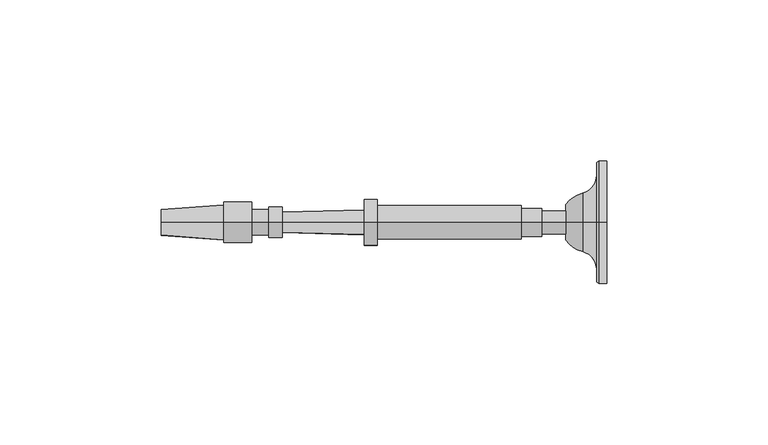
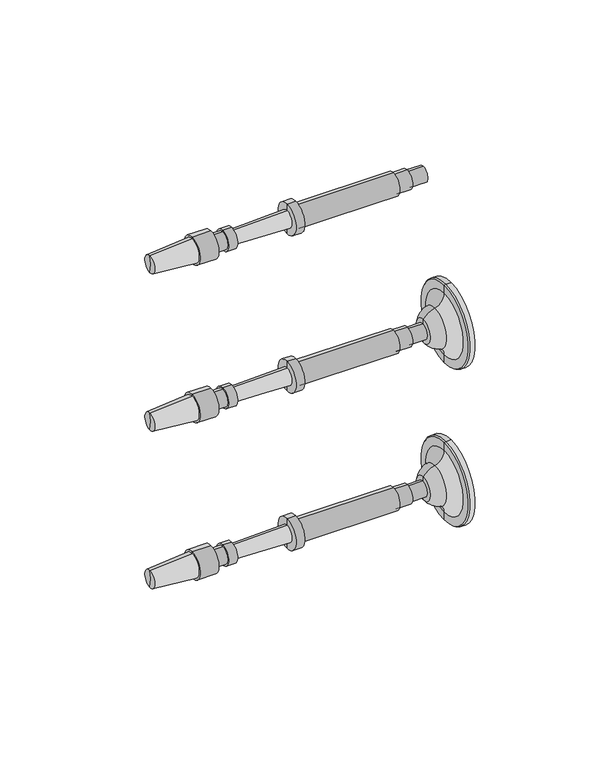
"""IFC4 building model written with IfcOpenShell, lengths in millimetres: railing geometry, RAILEASY CABLE RAILING CORNER TENSIONERS STAIR."""

from ifc_helpers import new_model, si_unit, point, frame, origin, place, context, project, spatial, polyline, circle_curve, ellipse_curve, trimmed, source, transform, mapped, element, save
from ifc_brep_helpers import plane_surface, cylinder_surface, revolved_surface, advanced_brep


def railing_fa4fd80e(model_context):
    return source(origin(), model_context, "Body", "AdvancedBrep", [
        advanced_brep(
        [(4032.408954, 16706.2866843, 33140.0282881), (4032.408954, 16706.2866843, 33143.6001631), (4032.408954, 16706.2866843, 33147.1720381), (3907.4650648, 16706.2866843, 33143.6001631), (3907.1694004, 16706.2866843, 33139.5757028), (3907.1694004, 16706.2866843, 33147.6246235), (3926.5127644, 16706.2866843, 33138.1546072), (3926.5127644, 16706.2866843, 33149.045719), (3926.5127644, 16706.2866843, 33137.2616385), (3926.5127644, 16706.2866843, 33149.9386877), (3935.1447956, 16706.2866843, 33137.2616385), (3935.1447956, 16706.2866843, 33149.9386877), (3935.1447956, 16706.2866843, 33139.6428885), (3935.1447956, 16706.2866843, 33147.5574377), (3940.5026081, 16706.2866843, 33139.6428885), (3940.5026081, 16706.2866843, 33147.5574377), (3940.5026081, 16706.2866843, 33138.8491385), (3940.5026081, 16706.2866843, 33148.3511877), (3944.5705769, 16706.2866843, 33138.8491385), (3944.5705769, 16706.2866843, 33148.3511877), (3944.614664, 16706.2866843, 33140.4360262), (3944.614664, 16706.2866843, 33146.7643), (3970.0048672, 16706.2866843, 33139.7306319), (3970.0048672, 16706.2866843, 33147.4696944), (3970.0048672, 16706.2866843, 33136.4564131), (3970.0048672, 16706.2866843, 33150.7439131), (3973.9736172, 16706.2866843, 33136.4564131), (3973.9736172, 16706.2866843, 33150.7439131), (3973.9736172, 16706.2866843, 33138.4407881), (3973.9736172, 16706.2866843, 33148.7595381), (4018.7212735, 16706.2866843, 33138.4407881), (4018.7212735, 16706.2866843, 33148.7595381), (4018.7212735, 16706.2866843, 33139.2345381), (4018.7212735, 16706.2866843, 33147.9657881), (4025.0712735, 16706.2866843, 33139.2345381), (4025.0712735, 16706.2866843, 33147.9657881), (4025.0712735, 16706.2866843, 33140.0282881), (4025.0712735, 16706.2866843, 33147.1720381)],
        [
            (0, 1),
            (1, 2),
            (2, 0, circle_curve(frame((4032.408954, 16706.2866843, 33143.6001631), z_axis=(1.0, 0.0, 0.0), x_axis=(0.0, 0.0, 1.0000000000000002)), 3.571875)),
            (0, 2, circle_curve(frame((4032.408954, 16706.2866843, 33143.6001631), z_axis=(1.0, 0.0, 0.0), x_axis=(0.0, 0.0, 1.0000000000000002)), 3.571875)),
            (3, 4),
            (4, 5, circle_curve(frame((3907.1694004, 16706.2866843, 33143.6001631), z_axis=(-1.0, 0.0, 0.0), x_axis=(0.0, 0.0, 1.0000000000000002)), 4.0244604)),
            (5, 3),
            (5, 4, circle_curve(frame((3907.1694004, 16706.2866843, 33143.6001631), z_axis=(-1.0, 0.0, 0.0), x_axis=(0.0, 0.0, 1.0000000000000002)), 4.0244604)),
            (4, 6),
            (6, 7, circle_curve(frame((3926.5127644, 16706.2866843, 33143.6001631), z_axis=(-1.0, 0.0, 0.0), x_axis=(0.0, 0.0, 1.0000000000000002)), 5.4455559)),
            (7, 5),
            (7, 6, circle_curve(frame((3926.5127644, 16706.2866843, 33143.6001631), z_axis=(-1.0, 0.0, 0.0), x_axis=(0.0, 0.0, 1.0000000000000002)), 5.4455559)),
            (6, 8),
            (8, 9, circle_curve(frame((3926.5127644, 16706.2866843, 33143.6001631), z_axis=(-1.0, 0.0, 0.0), x_axis=(0.0, 0.0, 1.0000000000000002)), 6.3385246)),
            (9, 7),
            (9, 8, circle_curve(frame((3926.5127644, 16706.2866843, 33143.6001631), z_axis=(-1.0, 0.0, 0.0), x_axis=(0.0, 0.0, 1.0000000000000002)), 6.3385246)),
            (8, 10),
            (10, 11, circle_curve(frame((3935.1447956, 16706.2866843, 33143.6001631), z_axis=(-1.0, 0.0, 0.0), x_axis=(0.0, 0.0, 1.0000000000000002)), 6.3385246)),
            (11, 9),
            (11, 10, circle_curve(frame((3935.1447956, 16706.2866843, 33143.6001631), z_axis=(-1.0, 0.0, 0.0), x_axis=(0.0, 0.0, 1.0000000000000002)), 6.3385246)),
            (10, 12),
            (12, 13, circle_curve(frame((3935.1447956, 16706.2866843, 33143.6001631), z_axis=(-1.0, 0.0, 0.0), x_axis=(0.0, 0.0, 1.0000000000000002)), 3.9572746)),
            (13, 11),
            (13, 12, circle_curve(frame((3935.1447956, 16706.2866843, 33143.6001631), z_axis=(-1.0, 0.0, 0.0), x_axis=(0.0, 0.0, 1.0000000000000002)), 3.9572746)),
            (12, 14),
            (14, 15, circle_curve(frame((3940.5026081, 16706.2866843, 33143.6001631), z_axis=(-1.0, 0.0, 0.0), x_axis=(0.0, 0.0, 1.0000000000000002)), 3.9572746)),
            (15, 13),
            (15, 14, circle_curve(frame((3940.5026081, 16706.2866843, 33143.6001631), z_axis=(-1.0, 0.0, 0.0), x_axis=(0.0, 0.0, 1.0000000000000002)), 3.9572746)),
            (14, 16),
            (16, 17, circle_curve(frame((3940.5026081, 16706.2866843, 33143.6001631), z_axis=(-1.0, 0.0, 0.0), x_axis=(0.0, 0.0, 1.0000000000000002)), 4.7510246)),
            (17, 15),
            (17, 16, circle_curve(frame((3940.5026081, 16706.2866843, 33143.6001631), z_axis=(-1.0, 0.0, 0.0), x_axis=(0.0, 0.0, 1.0000000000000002)), 4.7510246)),
            (16, 18),
            (18, 19, circle_curve(frame((3944.5705769, 16706.2866843, 33143.6001631), z_axis=(-1.0, 0.0, 0.0), x_axis=(0.0, 0.0, 1.0000000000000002)), 4.7510246)),
            (19, 17),
            (19, 18, circle_curve(frame((3944.5705769, 16706.2866843, 33143.6001631), z_axis=(-1.0, 0.0, 0.0), x_axis=(0.0, 0.0, 1.0000000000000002)), 4.7510246)),
            (18, 20),
            (20, 21, circle_curve(frame((3944.614664, 16706.2866843, 33143.6001631), z_axis=(-1.0, 0.0, 0.0), x_axis=(0.0, 0.0, 1.0000000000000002)), 3.1641369)),
            (21, 19),
            (21, 20, circle_curve(frame((3944.614664, 16706.2866843, 33143.6001631), z_axis=(-1.0, 0.0, 0.0), x_axis=(0.0, 0.0, 1.0000000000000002)), 3.1641369)),
            (20, 22),
            (22, 23, circle_curve(frame((3970.0048672, 16706.2866843, 33143.6001631), z_axis=(-1.0, 0.0, 0.0), x_axis=(0.0, 0.0, 1.0000000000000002)), 3.8695313)),
            (23, 21),
            (23, 22, circle_curve(frame((3970.0048672, 16706.2866843, 33143.6001631), z_axis=(-1.0, 0.0, 0.0), x_axis=(0.0, 0.0, 1.0000000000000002)), 3.8695313)),
            (22, 24),
            (24, 25, circle_curve(frame((3970.0048672, 16706.2866843, 33143.6001631), z_axis=(-1.0, 0.0, 0.0), x_axis=(0.0, 0.0, 1.0000000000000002)), 7.14375)),
            (25, 23),
            (25, 24, circle_curve(frame((3970.0048672, 16706.2866843, 33143.6001631), z_axis=(-1.0, 0.0, 0.0), x_axis=(0.0, 0.0, 1.0000000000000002)), 7.14375)),
            (24, 26),
            (26, 27, circle_curve(frame((3973.9736172, 16706.2866843, 33143.6001631), z_axis=(-1.0, 0.0, 0.0), x_axis=(0.0, 0.0, 1.0000000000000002)), 7.14375)),
            (27, 25),
            (27, 26, circle_curve(frame((3973.9736172, 16706.2866843, 33143.6001631), z_axis=(-1.0, 0.0, 0.0), x_axis=(0.0, 0.0, 1.0000000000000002)), 7.14375)),
            (26, 28),
            (28, 29, circle_curve(frame((3973.9736172, 16706.2866843, 33143.6001631), z_axis=(-1.0, 0.0, 0.0), x_axis=(0.0, 0.0, 1.0000000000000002)), 5.159375)),
            (29, 27),
            (29, 28, circle_curve(frame((3973.9736172, 16706.2866843, 33143.6001631), z_axis=(-1.0, 0.0, 0.0), x_axis=(0.0, 0.0, 1.0000000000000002)), 5.159375)),
            (28, 30),
            (30, 31, circle_curve(frame((4018.7212735, 16706.2866843, 33143.6001631), z_axis=(-1.0, 0.0, 0.0), x_axis=(0.0, 0.0, 1.0000000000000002)), 5.159375)),
            (31, 29),
            (31, 30, circle_curve(frame((4018.7212735, 16706.2866843, 33143.6001631), z_axis=(-1.0, 0.0, 0.0), x_axis=(0.0, 0.0, 1.0000000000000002)), 5.159375)),
            (30, 32),
            (32, 33, circle_curve(frame((4018.7212735, 16706.2866843, 33143.6001631), z_axis=(-1.0, 0.0, 0.0), x_axis=(0.0, 0.0, 1.0000000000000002)), 4.365625)),
            (33, 31),
            (33, 32, circle_curve(frame((4018.7212735, 16706.2866843, 33143.6001631), z_axis=(-1.0, 0.0, 0.0), x_axis=(0.0, 0.0, 1.0000000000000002)), 4.365625)),
            (32, 34),
            (34, 35, circle_curve(frame((4025.0712735, 16706.2866843, 33143.6001631), z_axis=(-1.0, 0.0, 0.0), x_axis=(0.0, 0.0, 1.0000000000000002)), 4.365625)),
            (35, 33),
            (35, 34, circle_curve(frame((4025.0712735, 16706.2866843, 33143.6001631), z_axis=(-1.0, 0.0, 0.0), x_axis=(0.0, 0.0, 1.0000000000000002)), 4.365625)),
            (34, 36),
            (36, 37, circle_curve(frame((4025.0712735, 16706.2866843, 33143.6001631), z_axis=(-1.0, 0.0, 0.0), x_axis=(0.0, 0.0, 1.0000000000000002)), 3.571875)),
            (37, 35),
            (37, 36, circle_curve(frame((4025.0712735, 16706.2866843, 33143.6001631), z_axis=(-1.0, 0.0, 0.0), x_axis=(0.0, 0.0, 1.0000000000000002)), 3.571875)),
            (36, 0),
            (2, 37),
        ],
        [
            plane_surface(frame((4032.408954, 16706.2866843, 33143.6001631), z_axis=(1.0, 0.0, 0.0), x_axis=(0.0, 0.0, 1.0))),
            revolved_surface(polyline([(3907.1694004, 16706.2866843, 33147.6246235), (3907.4650648, 16706.2866843, 33143.6001631)]), (3907.4650648, 16706.2866843, 33143.6001631), (-1.0, 0.0, 0.0)),
            revolved_surface(polyline([(3926.5127644, 16706.2866843, 33149.045719), (3907.1694004, 16706.2866843, 33147.6246235)]), (3907.4650648, 16706.2866843, 33143.6001631), (-1.0, 0.0, 0.0)),
            plane_surface(frame((3926.5127644, 16706.2866843, 33143.6001631), z_axis=(-1.0, 0.0, 0.0), x_axis=(0.0, 0.0, 1.0))),
            cylinder_surface(frame((3907.4650648, 16706.2866843, 33143.6001631), z_axis=(-1.0, 0.0, 0.0), x_axis=(0.0, 0.0, 1.0000000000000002)), 6.3385246),
            plane_surface(frame((3935.1447956, 16706.2866843, 33143.6001631), z_axis=(1.0, 0.0, 0.0), x_axis=(0.0, 0.0, 1.0))),
            cylinder_surface(frame((3907.4650648, 16706.2866843, 33143.6001631), z_axis=(-1.0, 0.0, 0.0), x_axis=(0.0, 0.0, 1.0000000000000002)), 3.9572746),
            plane_surface(frame((3940.5026081, 16706.2866843, 33143.6001631), z_axis=(-1.0, 0.0, 0.0), x_axis=(0.0, 0.0, 1.0))),
            cylinder_surface(frame((3907.4650648, 16706.2866843, 33143.6001631), z_axis=(-1.0, 0.0, 0.0), x_axis=(0.0, 0.0, 1.0000000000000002)), 4.7510246),
            plane_surface(frame((3944.614664, 16706.2866843, 33143.6001631), z_axis=(1.0, 0.0, 0.0), x_axis=(0.0, 0.0, 1.0))),
            revolved_surface(polyline([(3970.0048672, 16706.2866843, 33147.4696944), (3944.614664, 16706.2866843, 33146.7643)]), (3907.4650648, 16706.2866843, 33143.6001631), (-1.0, 0.0, 0.0)),
            plane_surface(frame((3970.0048672, 16706.2866843, 33143.6001631), z_axis=(-1.0, 0.0, 0.0), x_axis=(0.0, 0.0, 1.0))),
            cylinder_surface(frame((3907.4650648, 16706.2866843, 33143.6001631), z_axis=(-1.0, 0.0, 0.0), x_axis=(0.0, 0.0, 1.0000000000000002)), 7.14375),
            plane_surface(frame((3973.9736172, 16706.2866843, 33143.6001631), z_axis=(1.0, 0.0, 0.0), x_axis=(0.0, 0.0, 1.0))),
            cylinder_surface(frame((3907.4650648, 16706.2866843, 33143.6001631), z_axis=(-1.0, 0.0, 0.0), x_axis=(0.0, 0.0, 1.0000000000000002)), 5.159375),
            plane_surface(frame((4018.7212735, 16706.2866843, 33143.6001631), z_axis=(1.0, 0.0, 0.0), x_axis=(0.0, 0.0, 1.0))),
            cylinder_surface(frame((3907.4650648, 16706.2866843, 33143.6001631), z_axis=(-1.0, 0.0, 0.0), x_axis=(0.0, 0.0, 1.0000000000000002)), 4.365625),
            plane_surface(frame((4025.0712735, 16706.2866843, 33143.6001631), z_axis=(1.0, 0.0, 0.0), x_axis=(0.0, 0.0, 1.0))),
            cylinder_surface(frame((3907.4650648, 16706.2866843, 33143.6001631), z_axis=(-1.0, 0.0, 0.0), x_axis=(0.0, 0.0, 1.0000000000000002)), 3.571875),
        ],
        [
            (0, [[1, 2, 3]]),
            (0, [[-2, -1, 4]]),
            (1, [[5, 6, 7]]),
            (1, [[-7, 8, -5]]),
            (2, [[9, 10, 11, -6]]),
            (2, [[-11, 12, -9, -8]]),
            (3, [[13, 14, 15, -10]]),
            (3, [[-15, 16, -13, -12]]),
            (4, [[17, 18, 19, -14]]),
            (4, [[-19, 20, -17, -16]]),
            (5, [[21, 22, 23, -18]]),
            (5, [[-23, 24, -21, -20]]),
            (6, [[25, 26, 27, -22]]),
            (6, [[-27, 28, -25, -24]]),
            (7, [[29, 30, 31, -26]]),
            (7, [[-31, 32, -29, -28]]),
            (8, [[33, 34, 35, -30]]),
            (8, [[-35, 36, -33, -32]]),
            (9, [[37, 38, 39, -34]]),
            (9, [[-39, 40, -37, -36]]),
            (10, [[41, 42, 43, -38]]),
            (10, [[-43, 44, -41, -40]]),
            (11, [[45, 46, 47, -42]]),
            (11, [[-47, 48, -45, -44]]),
            (12, [[49, 50, 51, -46]]),
            (12, [[-51, 52, -49, -48]]),
            (13, [[53, 54, 55, -50]]),
            (13, [[-55, 56, -53, -52]]),
            (14, [[57, 58, 59, -54]]),
            (14, [[-59, 60, -57, -56]]),
            (15, [[61, 62, 63, -58]]),
            (15, [[-63, 64, -61, -60]]),
            (16, [[65, 66, 67, -62]]),
            (16, [[-67, 68, -65, -64]]),
            (17, [[69, 70, 71, -66]]),
            (17, [[-71, 72, -69, -68]]),
            (18, [[73, -3, 74, -70]]),
            (18, [[-74, -4, -73, -72]]),
        ],
    ),
        advanced_brep(
        [(4045.1015906, 16706.2866843, 33067.4001631), (4045.1015906, 16706.2866843, 33086.4501631), (4045.1015906, 16706.2866843, 33048.3501631), (4032.408954, 16706.2866843, 33061.8769785), (4032.408954, 16706.2866843, 33072.9233478), (4032.408954, 16706.2866843, 33067.4001631), (4037.6850504, 16706.2866843, 33058.2720381), (4037.6850504, 16706.2866843, 33076.5282881), (4042.0506754, 16706.2866843, 33052.6458254), (4042.0506754, 16706.2866843, 33082.1545009), (4042.0506754, 16706.2866843, 33048.7762941), (4042.0506754, 16706.2866843, 33086.0240321), (4042.7203406, 16706.2866843, 33048.3501631), (4042.7203406, 16706.2866843, 33086.4501631)],
        [
            (0, 1),
            (1, 2, circle_curve(frame((4045.1015906, 16706.2866843, 33067.4001631), z_axis=(1.0, 0.0, 0.0), x_axis=(0.0, 0.0, 1.0)), 19.05)),
            (2, 0),
            (2, 1, circle_curve(frame((4045.1015906, 16706.2866843, 33067.4001631), z_axis=(1.0, 0.0, 0.0), x_axis=(0.0, 0.0, 1.0)), 19.05)),
            (3, 4, circle_curve(frame((4032.408954, 16706.2866843, 33067.4001631), z_axis=(-1.0, 0.0, 0.0), x_axis=(0.0, 0.0, 1.0)), 5.5231846)),
            (4, 5),
            (5, 3),
            (4, 3, circle_curve(frame((4032.408954, 16706.2866843, 33067.4001631), z_axis=(-1.0, 0.0, 0.0), x_axis=(0.0, 0.0, 1.0)), 5.5231846)),
            (6, 7, circle_curve(frame((4037.6850504, 16706.2866843, 33067.4001631), z_axis=(-1.0, 0.0, 0.0), x_axis=(0.0, 0.0, 1.0)), 9.128125)),
            (7, 4, circle_curve(frame((4040.0094591, 16706.2866843, 33067.4628958), z_axis=(0.0, -1.0, 0.0), x_axis=(-1.0, 0.0, 0.0)), 9.3586438)),
            (3, 6, circle_curve(frame((4040.0094591, 16706.2866843, 33067.3374304), z_axis=(0.0, -1.0, 0.0), x_axis=(-1.0, 0.0, 0.0)), 9.3586438)),
            (7, 6, circle_curve(frame((4037.6850504, 16706.2866843, 33067.4001631), z_axis=(-1.0, 0.0, 0.0), x_axis=(0.0, 0.0, 1.0)), 9.128125)),
            (8, 9, circle_curve(frame((4042.0506754, 16706.2866843, 33067.4001631), z_axis=(-1.0, 0.0, 0.0), x_axis=(0.0, 0.0, 1.0)), 14.7543378)),
            (9, 7, circle_curve(frame((4036.2424634, 16706.2866843, 33082.1545009), z_axis=(0.0, 1.0, 0.0), x_axis=(-1.0, 0.0, 0.0)), 5.8082121)),
            (6, 8, circle_curve(frame((4036.2424634, 16706.2866843, 33052.6458254), z_axis=(0.0, 1.0, 0.0), x_axis=(-1.0, 0.0, 0.0)), 5.8082121)),
            (9, 8, circle_curve(frame((4042.0506754, 16706.2866843, 33067.4001631), z_axis=(-1.0, 0.0, 0.0), x_axis=(0.0, 0.0, 1.0)), 14.7543378)),
            (10, 11, circle_curve(frame((4042.0506754, 16706.2866843, 33067.4001631), z_axis=(-1.0, 0.0, 0.0), x_axis=(0.0, 0.0, 1.0)), 18.623869)),
            (11, 9),
            (8, 10),
            (11, 10, circle_curve(frame((4042.0506754, 16706.2866843, 33067.4001631), z_axis=(-1.0, 0.0, 0.0), x_axis=(0.0, 0.0, 1.0)), 18.623869)),
            (12, 13, circle_curve(frame((4042.7203406, 16706.2866843, 33067.4001631), z_axis=(-1.0, 0.0, 0.0), x_axis=(0.0, 0.0, 1.0)), 19.05)),
            (13, 11),
            (10, 12),
            (13, 12, circle_curve(frame((4042.7203406, 16706.2866843, 33067.4001631), z_axis=(-1.0, 0.0, 0.0), x_axis=(0.0, 0.0, 1.0)), 19.05)),
            (1, 13),
            (12, 2),
        ],
        [
            plane_surface(frame((4045.1015906, 16706.2866843, 33067.4001631), z_axis=(1.0, 0.0, 0.0), x_axis=(0.0, 0.0, 1.0))),
            plane_surface(frame((4032.408954, 16706.2866843, 33067.4001631), z_axis=(-1.0, 0.0, 0.0), x_axis=(0.0, 0.0, 1.0))),
            revolved_surface(trimmed(ellipse_curve(frame((4040.0094591, 16706.2866843, 33067.4628958), z_axis=(0.0, 1.0, 0.0), x_axis=(-1.0, 0.0, 0.0)), 9.3586438, 9.3586438), [point((4032.408954, 16706.2866843, 33072.9233478))], [point((4037.6850504, 16706.2866843, 33076.5282881))], True, "CARTESIAN"), (4045.1015906, 16706.2866843, 33067.4001631), (1.0, 0.0, 0.0)),
            revolved_surface(trimmed(ellipse_curve(frame((4036.2424634, 16706.2866843, 33082.1545009), z_axis=(0.0, -1.0, 0.0), x_axis=(-1.0, 0.0, 0.0)), 5.8082121, 5.8082121), [point((4037.6850504, 16706.2866843, 33076.5282881))], [point((4042.0506754, 16706.2866843, 33082.1545009))], True, "CARTESIAN"), (4045.1015906, 16706.2866843, 33067.4001631), (1.0, 0.0, 0.0)),
            plane_surface(frame((4042.0506754, 16706.2866843, 33067.4001631), z_axis=(-1.0, 0.0, 0.0), x_axis=(0.0, 0.0, 1.0))),
            revolved_surface(polyline([(4042.0506754, 16706.2866843, 33086.0240321), (4042.7203406, 16706.2866843, 33086.4501631)]), (4045.1015906, 16706.2866843, 33067.4001631), (1.0, 0.0, 0.0)),
            cylinder_surface(frame((4045.1015906, 16706.2866843, 33067.4001631), z_axis=(1.0, 0.0, 0.0), x_axis=(0.0, 0.0, 1.0)), 19.05),
        ],
        [
            (0, [[1, 2, 3]]),
            (0, [[-3, 4, -1]]),
            (1, [[5, 6, 7]]),
            (1, [[8, -7, -6]]),
            (2, [[9, 10, -5, 11]]),
            (2, [[12, -11, -8, -10]]),
            (3, [[13, 14, -9, 15]]),
            (3, [[16, -15, -12, -14]]),
            (4, [[17, 18, -13, 19]]),
            (4, [[20, -19, -16, -18]]),
            (5, [[21, 22, -17, 23]]),
            (5, [[24, -23, -20, -22]]),
            (6, [[-2, 25, -21, 26]]),
            (6, [[-4, -26, -24, -25]]),
        ],
    ),
        advanced_brep(
        [(4032.408954, 16706.2866843, 33063.8282881), (4032.408954, 16706.2866843, 33067.4001631), (4032.408954, 16706.2866843, 33070.9720381), (3907.4650648, 16706.2866843, 33067.4001631), (3907.1694004, 16706.2866843, 33063.3757028), (3907.1694004, 16706.2866843, 33071.4246235), (3926.5127644, 16706.2866843, 33061.9546072), (3926.5127644, 16706.2866843, 33072.845719), (3926.5127644, 16706.2866843, 33061.0616385), (3926.5127644, 16706.2866843, 33073.7386877), (3935.1447956, 16706.2866843, 33061.0616385), (3935.1447956, 16706.2866843, 33073.7386877), (3935.1447956, 16706.2866843, 33063.4428885), (3935.1447956, 16706.2866843, 33071.3574377), (3940.5026081, 16706.2866843, 33063.4428885), (3940.5026081, 16706.2866843, 33071.3574377), (3940.5026081, 16706.2866843, 33062.6491385), (3940.5026081, 16706.2866843, 33072.1511877), (3944.5705769, 16706.2866843, 33062.6491385), (3944.5705769, 16706.2866843, 33072.1511877), (3944.614664, 16706.2866843, 33064.2360262), (3944.614664, 16706.2866843, 33070.5643), (3970.0048672, 16706.2866843, 33063.5306319), (3970.0048672, 16706.2866843, 33071.2696944), (3970.0048672, 16706.2866843, 33060.2564131), (3970.0048672, 16706.2866843, 33074.5439131), (3973.9736172, 16706.2866843, 33060.2564131), (3973.9736172, 16706.2866843, 33074.5439131), (3973.9736172, 16706.2866843, 33062.2407881), (3973.9736172, 16706.2866843, 33072.5595381), (4018.7212735, 16706.2866843, 33062.2407881), (4018.7212735, 16706.2866843, 33072.5595381), (4018.7212735, 16706.2866843, 33063.0345381), (4018.7212735, 16706.2866843, 33071.7657881), (4025.0712735, 16706.2866843, 33063.0345381), (4025.0712735, 16706.2866843, 33071.7657881), (4025.0712735, 16706.2866843, 33063.8282881), (4025.0712735, 16706.2866843, 33070.9720381)],
        [
            (0, 1),
            (1, 2),
            (2, 0, circle_curve(frame((4032.408954, 16706.2866843, 33067.4001631), z_axis=(1.0, 0.0, 0.0), x_axis=(0.0, 0.0, 1.0000000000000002)), 3.571875)),
            (0, 2, circle_curve(frame((4032.408954, 16706.2866843, 33067.4001631), z_axis=(1.0, 0.0, 0.0), x_axis=(0.0, 0.0, 1.0000000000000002)), 3.571875)),
            (3, 4),
            (4, 5, circle_curve(frame((3907.1694004, 16706.2866843, 33067.4001631), z_axis=(-1.0, 0.0, 0.0), x_axis=(0.0, 0.0, 1.0000000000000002)), 4.0244604)),
            (5, 3),
            (5, 4, circle_curve(frame((3907.1694004, 16706.2866843, 33067.4001631), z_axis=(-1.0, 0.0, 0.0), x_axis=(0.0, 0.0, 1.0000000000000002)), 4.0244604)),
            (4, 6),
            (6, 7, circle_curve(frame((3926.5127644, 16706.2866843, 33067.4001631), z_axis=(-1.0, 0.0, 0.0), x_axis=(0.0, 0.0, 1.0000000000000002)), 5.4455559)),
            (7, 5),
            (7, 6, circle_curve(frame((3926.5127644, 16706.2866843, 33067.4001631), z_axis=(-1.0, 0.0, 0.0), x_axis=(0.0, 0.0, 1.0000000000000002)), 5.4455559)),
            (6, 8),
            (8, 9, circle_curve(frame((3926.5127644, 16706.2866843, 33067.4001631), z_axis=(-1.0, 0.0, 0.0), x_axis=(0.0, 0.0, 1.0000000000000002)), 6.3385246)),
            (9, 7),
            (9, 8, circle_curve(frame((3926.5127644, 16706.2866843, 33067.4001631), z_axis=(-1.0, 0.0, 0.0), x_axis=(0.0, 0.0, 1.0000000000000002)), 6.3385246)),
            (8, 10),
            (10, 11, circle_curve(frame((3935.1447956, 16706.2866843, 33067.4001631), z_axis=(-1.0, 0.0, 0.0), x_axis=(0.0, 0.0, 1.0000000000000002)), 6.3385246)),
            (11, 9),
            (11, 10, circle_curve(frame((3935.1447956, 16706.2866843, 33067.4001631), z_axis=(-1.0, 0.0, 0.0), x_axis=(0.0, 0.0, 1.0000000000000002)), 6.3385246)),
            (10, 12),
            (12, 13, circle_curve(frame((3935.1447956, 16706.2866843, 33067.4001631), z_axis=(-1.0, 0.0, 0.0), x_axis=(0.0, 0.0, 1.0000000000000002)), 3.9572746)),
            (13, 11),
            (13, 12, circle_curve(frame((3935.1447956, 16706.2866843, 33067.4001631), z_axis=(-1.0, 0.0, 0.0), x_axis=(0.0, 0.0, 1.0000000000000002)), 3.9572746)),
            (12, 14),
            (14, 15, circle_curve(frame((3940.5026081, 16706.2866843, 33067.4001631), z_axis=(-1.0, 0.0, 0.0), x_axis=(0.0, 0.0, 1.0000000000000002)), 3.9572746)),
            (15, 13),
            (15, 14, circle_curve(frame((3940.5026081, 16706.2866843, 33067.4001631), z_axis=(-1.0, 0.0, 0.0), x_axis=(0.0, 0.0, 1.0000000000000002)), 3.9572746)),
            (14, 16),
            (16, 17, circle_curve(frame((3940.5026081, 16706.2866843, 33067.4001631), z_axis=(-1.0, 0.0, 0.0), x_axis=(0.0, 0.0, 1.0000000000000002)), 4.7510246)),
            (17, 15),
            (17, 16, circle_curve(frame((3940.5026081, 16706.2866843, 33067.4001631), z_axis=(-1.0, 0.0, 0.0), x_axis=(0.0, 0.0, 1.0000000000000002)), 4.7510246)),
            (16, 18),
            (18, 19, circle_curve(frame((3944.5705769, 16706.2866843, 33067.4001631), z_axis=(-1.0, 0.0, 0.0), x_axis=(0.0, 0.0, 1.0000000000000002)), 4.7510246)),
            (19, 17),
            (19, 18, circle_curve(frame((3944.5705769, 16706.2866843, 33067.4001631), z_axis=(-1.0, 0.0, 0.0), x_axis=(0.0, 0.0, 1.0000000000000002)), 4.7510246)),
            (18, 20),
            (20, 21, circle_curve(frame((3944.614664, 16706.2866843, 33067.4001631), z_axis=(-1.0, 0.0, 0.0), x_axis=(0.0, 0.0, 1.0000000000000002)), 3.1641369)),
            (21, 19),
            (21, 20, circle_curve(frame((3944.614664, 16706.2866843, 33067.4001631), z_axis=(-1.0, 0.0, 0.0), x_axis=(0.0, 0.0, 1.0000000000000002)), 3.1641369)),
            (20, 22),
            (22, 23, circle_curve(frame((3970.0048672, 16706.2866843, 33067.4001631), z_axis=(-1.0, 0.0, 0.0), x_axis=(0.0, 0.0, 1.0000000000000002)), 3.8695313)),
            (23, 21),
            (23, 22, circle_curve(frame((3970.0048672, 16706.2866843, 33067.4001631), z_axis=(-1.0, 0.0, 0.0), x_axis=(0.0, 0.0, 1.0000000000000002)), 3.8695313)),
            (22, 24),
            (24, 25, circle_curve(frame((3970.0048672, 16706.2866843, 33067.4001631), z_axis=(-1.0, 0.0, 0.0), x_axis=(0.0, 0.0, 1.0000000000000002)), 7.14375)),
            (25, 23),
            (25, 24, circle_curve(frame((3970.0048672, 16706.2866843, 33067.4001631), z_axis=(-1.0, 0.0, 0.0), x_axis=(0.0, 0.0, 1.0000000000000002)), 7.14375)),
            (24, 26),
            (26, 27, circle_curve(frame((3973.9736172, 16706.2866843, 33067.4001631), z_axis=(-1.0, 0.0, 0.0), x_axis=(0.0, 0.0, 1.0000000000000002)), 7.14375)),
            (27, 25),
            (27, 26, circle_curve(frame((3973.9736172, 16706.2866843, 33067.4001631), z_axis=(-1.0, 0.0, 0.0), x_axis=(0.0, 0.0, 1.0000000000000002)), 7.14375)),
            (26, 28),
            (28, 29, circle_curve(frame((3973.9736172, 16706.2866843, 33067.4001631), z_axis=(-1.0, 0.0, 0.0), x_axis=(0.0, 0.0, 1.0000000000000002)), 5.159375)),
            (29, 27),
            (29, 28, circle_curve(frame((3973.9736172, 16706.2866843, 33067.4001631), z_axis=(-1.0, 0.0, 0.0), x_axis=(0.0, 0.0, 1.0000000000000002)), 5.159375)),
            (28, 30),
            (30, 31, circle_curve(frame((4018.7212735, 16706.2866843, 33067.4001631), z_axis=(-1.0, 0.0, 0.0), x_axis=(0.0, 0.0, 1.0000000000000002)), 5.159375)),
            (31, 29),
            (31, 30, circle_curve(frame((4018.7212735, 16706.2866843, 33067.4001631), z_axis=(-1.0, 0.0, 0.0), x_axis=(0.0, 0.0, 1.0000000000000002)), 5.159375)),
            (30, 32),
            (32, 33, circle_curve(frame((4018.7212735, 16706.2866843, 33067.4001631), z_axis=(-1.0, 0.0, 0.0), x_axis=(0.0, 0.0, 1.0000000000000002)), 4.365625)),
            (33, 31),
            (33, 32, circle_curve(frame((4018.7212735, 16706.2866843, 33067.4001631), z_axis=(-1.0, 0.0, 0.0), x_axis=(0.0, 0.0, 1.0000000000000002)), 4.365625)),
            (32, 34),
            (34, 35, circle_curve(frame((4025.0712735, 16706.2866843, 33067.4001631), z_axis=(-1.0, 0.0, 0.0), x_axis=(0.0, 0.0, 1.0000000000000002)), 4.365625)),
            (35, 33),
            (35, 34, circle_curve(frame((4025.0712735, 16706.2866843, 33067.4001631), z_axis=(-1.0, 0.0, 0.0), x_axis=(0.0, 0.0, 1.0000000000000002)), 4.365625)),
            (34, 36),
            (36, 37, circle_curve(frame((4025.0712735, 16706.2866843, 33067.4001631), z_axis=(-1.0, 0.0, 0.0), x_axis=(0.0, 0.0, 1.0000000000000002)), 3.571875)),
            (37, 35),
            (37, 36, circle_curve(frame((4025.0712735, 16706.2866843, 33067.4001631), z_axis=(-1.0, 0.0, 0.0), x_axis=(0.0, 0.0, 1.0000000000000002)), 3.571875)),
            (36, 0),
            (2, 37),
        ],
        [
            plane_surface(frame((4032.408954, 16706.2866843, 33067.4001631), z_axis=(1.0, 0.0, 0.0), x_axis=(0.0, 0.0, 1.0))),
            revolved_surface(polyline([(3907.1694004, 16706.2866843, 33071.4246235), (3907.4650648, 16706.2866843, 33067.4001631)]), (3907.4650648, 16706.2866843, 33067.4001631), (-1.0, 0.0, 0.0)),
            revolved_surface(polyline([(3926.5127644, 16706.2866843, 33072.845719), (3907.1694004, 16706.2866843, 33071.4246235)]), (3907.4650648, 16706.2866843, 33067.4001631), (-1.0, 0.0, 0.0)),
            plane_surface(frame((3926.5127644, 16706.2866843, 33067.4001631), z_axis=(-1.0, 0.0, 0.0), x_axis=(0.0, 0.0, 1.0))),
            cylinder_surface(frame((3907.4650648, 16706.2866843, 33067.4001631), z_axis=(-1.0, 0.0, 0.0), x_axis=(0.0, 0.0, 1.0000000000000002)), 6.3385246),
            plane_surface(frame((3935.1447956, 16706.2866843, 33067.4001631), z_axis=(1.0, 0.0, 0.0), x_axis=(0.0, 0.0, 1.0))),
            cylinder_surface(frame((3907.4650648, 16706.2866843, 33067.4001631), z_axis=(-1.0, 0.0, 0.0), x_axis=(0.0, 0.0, 1.0000000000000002)), 3.9572746),
            plane_surface(frame((3940.5026081, 16706.2866843, 33067.4001631), z_axis=(-1.0, 0.0, 0.0), x_axis=(0.0, 0.0, 1.0))),
            cylinder_surface(frame((3907.4650648, 16706.2866843, 33067.4001631), z_axis=(-1.0, 0.0, 0.0), x_axis=(0.0, 0.0, 1.0000000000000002)), 4.7510246),
            plane_surface(frame((3944.614664, 16706.2866843, 33067.4001631), z_axis=(1.0, 0.0, 0.0), x_axis=(0.0, 0.0, 1.0))),
            revolved_surface(polyline([(3970.0048672, 16706.2866843, 33071.2696944), (3944.614664, 16706.2866843, 33070.5643)]), (3907.4650648, 16706.2866843, 33067.4001631), (-1.0, 0.0, 0.0)),
            plane_surface(frame((3970.0048672, 16706.2866843, 33067.4001631), z_axis=(-1.0, 0.0, 0.0), x_axis=(0.0, 0.0, 1.0))),
            cylinder_surface(frame((3907.4650648, 16706.2866843, 33067.4001631), z_axis=(-1.0, 0.0, 0.0), x_axis=(0.0, 0.0, 1.0000000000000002)), 7.14375),
            plane_surface(frame((3973.9736172, 16706.2866843, 33067.4001631), z_axis=(1.0, 0.0, 0.0), x_axis=(0.0, 0.0, 1.0))),
            cylinder_surface(frame((3907.4650648, 16706.2866843, 33067.4001631), z_axis=(-1.0, 0.0, 0.0), x_axis=(0.0, 0.0, 1.0000000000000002)), 5.159375),
            plane_surface(frame((4018.7212735, 16706.2866843, 33067.4001631), z_axis=(1.0, 0.0, 0.0), x_axis=(0.0, 0.0, 1.0))),
            cylinder_surface(frame((3907.4650648, 16706.2866843, 33067.4001631), z_axis=(-1.0, 0.0, 0.0), x_axis=(0.0, 0.0, 1.0000000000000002)), 4.365625),
            plane_surface(frame((4025.0712735, 16706.2866843, 33067.4001631), z_axis=(1.0, 0.0, 0.0), x_axis=(0.0, 0.0, 1.0))),
            cylinder_surface(frame((3907.4650648, 16706.2866843, 33067.4001631), z_axis=(-1.0, 0.0, 0.0), x_axis=(0.0, 0.0, 1.0000000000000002)), 3.571875),
        ],
        [
            (0, [[1, 2, 3]]),
            (0, [[-2, -1, 4]]),
            (1, [[5, 6, 7]]),
            (1, [[-7, 8, -5]]),
            (2, [[9, 10, 11, -6]]),
            (2, [[-11, 12, -9, -8]]),
            (3, [[13, 14, 15, -10]]),
            (3, [[-15, 16, -13, -12]]),
            (4, [[17, 18, 19, -14]]),
            (4, [[-19, 20, -17, -16]]),
            (5, [[21, 22, 23, -18]]),
            (5, [[-23, 24, -21, -20]]),
            (6, [[25, 26, 27, -22]]),
            (6, [[-27, 28, -25, -24]]),
            (7, [[29, 30, 31, -26]]),
            (7, [[-31, 32, -29, -28]]),
            (8, [[33, 34, 35, -30]]),
            (8, [[-35, 36, -33, -32]]),
            (9, [[37, 38, 39, -34]]),
            (9, [[-39, 40, -37, -36]]),
            (10, [[41, 42, 43, -38]]),
            (10, [[-43, 44, -41, -40]]),
            (11, [[45, 46, 47, -42]]),
            (11, [[-47, 48, -45, -44]]),
            (12, [[49, 50, 51, -46]]),
            (12, [[-51, 52, -49, -48]]),
            (13, [[53, 54, 55, -50]]),
            (13, [[-55, 56, -53, -52]]),
            (14, [[57, 58, 59, -54]]),
            (14, [[-59, 60, -57, -56]]),
            (15, [[61, 62, 63, -58]]),
            (15, [[-63, 64, -61, -60]]),
            (16, [[65, 66, 67, -62]]),
            (16, [[-67, 68, -65, -64]]),
            (17, [[69, 70, 71, -66]]),
            (17, [[-71, 72, -69, -68]]),
            (18, [[73, -3, 74, -70]]),
            (18, [[-74, -4, -73, -72]]),
        ],
    ),
        advanced_brep(
        [(4045.1015906, 16706.2866843, 32991.2001631), (4045.1015906, 16706.2866843, 33010.2501631), (4045.1015906, 16706.2866843, 32972.1501631), (4032.408954, 16706.2866843, 32985.6769785), (4032.408954, 16706.2866843, 32996.7233478), (4032.408954, 16706.2866843, 32991.2001631), (4037.6850504, 16706.2866843, 32982.0720381), (4037.6850504, 16706.2866843, 33000.3282881), (4042.0506754, 16706.2866843, 32976.4458254), (4042.0506754, 16706.2866843, 33005.9545009), (4042.0506754, 16706.2866843, 32972.5762941), (4042.0506754, 16706.2866843, 33009.8240321), (4042.7203406, 16706.2866843, 32972.1501631), (4042.7203406, 16706.2866843, 33010.2501631)],
        [
            (0, 1),
            (1, 2, circle_curve(frame((4045.1015906, 16706.2866843, 32991.2001631), z_axis=(1.0, 0.0, 0.0), x_axis=(0.0, 0.0, 1.0)), 19.05)),
            (2, 0),
            (2, 1, circle_curve(frame((4045.1015906, 16706.2866843, 32991.2001631), z_axis=(1.0, 0.0, 0.0), x_axis=(0.0, 0.0, 1.0)), 19.05)),
            (3, 4, circle_curve(frame((4032.408954, 16706.2866843, 32991.2001631), z_axis=(-1.0, 0.0, 0.0), x_axis=(0.0, 0.0, 1.0)), 5.5231846)),
            (4, 5),
            (5, 3),
            (4, 3, circle_curve(frame((4032.408954, 16706.2866843, 32991.2001631), z_axis=(-1.0, 0.0, 0.0), x_axis=(0.0, 0.0, 1.0)), 5.5231846)),
            (6, 7, circle_curve(frame((4037.6850504, 16706.2866843, 32991.2001631), z_axis=(-1.0, 0.0, 0.0), x_axis=(0.0, 0.0, 1.0)), 9.128125)),
            (7, 4, circle_curve(frame((4040.0094591, 16706.2866843, 32991.2628958), z_axis=(0.0, -1.0, 0.0), x_axis=(-1.0, 0.0, 0.0)), 9.3586438)),
            (3, 6, circle_curve(frame((4040.0094591, 16706.2866843, 32991.1374304), z_axis=(0.0, -1.0, 0.0), x_axis=(-1.0, 0.0, 0.0)), 9.3586438)),
            (7, 6, circle_curve(frame((4037.6850504, 16706.2866843, 32991.2001631), z_axis=(-1.0, 0.0, 0.0), x_axis=(0.0, 0.0, 1.0)), 9.128125)),
            (8, 9, circle_curve(frame((4042.0506754, 16706.2866843, 32991.2001631), z_axis=(-1.0, 0.0, 0.0), x_axis=(0.0, 0.0, 1.0)), 14.7543378)),
            (9, 7, circle_curve(frame((4036.2424634, 16706.2866843, 33005.9545009), z_axis=(0.0, 1.0, 0.0), x_axis=(-1.0, 0.0, 0.0)), 5.8082121)),
            (6, 8, circle_curve(frame((4036.2424634, 16706.2866843, 32976.4458254), z_axis=(0.0, 1.0, 0.0), x_axis=(-1.0, 0.0, 0.0)), 5.8082121)),
            (9, 8, circle_curve(frame((4042.0506754, 16706.2866843, 32991.2001631), z_axis=(-1.0, 0.0, 0.0), x_axis=(0.0, 0.0, 1.0)), 14.7543378)),
            (10, 11, circle_curve(frame((4042.0506754, 16706.2866843, 32991.2001631), z_axis=(-1.0, 0.0, 0.0), x_axis=(0.0, 0.0, 1.0)), 18.623869)),
            (11, 9),
            (8, 10),
            (11, 10, circle_curve(frame((4042.0506754, 16706.2866843, 32991.2001631), z_axis=(-1.0, 0.0, 0.0), x_axis=(0.0, 0.0, 1.0)), 18.623869)),
            (12, 13, circle_curve(frame((4042.7203406, 16706.2866843, 32991.2001631), z_axis=(-1.0, 0.0, 0.0), x_axis=(0.0, 0.0, 1.0)), 19.05)),
            (13, 11),
            (10, 12),
            (13, 12, circle_curve(frame((4042.7203406, 16706.2866843, 32991.2001631), z_axis=(-1.0, 0.0, 0.0), x_axis=(0.0, 0.0, 1.0)), 19.05)),
            (1, 13),
            (12, 2),
        ],
        [
            plane_surface(frame((4045.1015906, 16706.2866843, 32991.2001631), z_axis=(1.0, 0.0, 0.0), x_axis=(0.0, 0.0, 1.0))),
            plane_surface(frame((4032.408954, 16706.2866843, 32991.2001631), z_axis=(-1.0, 0.0, 0.0), x_axis=(0.0, 0.0, 1.0))),
            revolved_surface(trimmed(ellipse_curve(frame((4040.0094591, 16706.2866843, 32991.2628958), z_axis=(0.0, 1.0, 0.0), x_axis=(-1.0, 0.0, 0.0)), 9.3586438, 9.3586438), [point((4032.408954, 16706.2866843, 32996.7233478))], [point((4037.6850504, 16706.2866843, 33000.3282881))], True, "CARTESIAN"), (4045.1015906, 16706.2866843, 32991.2001631), (1.0, 0.0, 0.0)),
            revolved_surface(trimmed(ellipse_curve(frame((4036.2424634, 16706.2866843, 33005.9545009), z_axis=(0.0, -1.0, 0.0), x_axis=(-1.0, 0.0, 0.0)), 5.8082121, 5.8082121), [point((4037.6850504, 16706.2866843, 33000.3282881))], [point((4042.0506754, 16706.2866843, 33005.9545009))], True, "CARTESIAN"), (4045.1015906, 16706.2866843, 32991.2001631), (1.0, 0.0, 0.0)),
            plane_surface(frame((4042.0506754, 16706.2866843, 32991.2001631), z_axis=(-1.0, 0.0, 0.0), x_axis=(0.0, 0.0, 1.0))),
            revolved_surface(polyline([(4042.0506754, 16706.2866843, 33009.8240321), (4042.7203406, 16706.2866843, 33010.2501631)]), (4045.1015906, 16706.2866843, 32991.2001631), (1.0, 0.0, 0.0)),
            cylinder_surface(frame((4045.1015906, 16706.2866843, 32991.2001631), z_axis=(1.0, 0.0, 0.0), x_axis=(0.0, 0.0, 1.0)), 19.05),
        ],
        [
            (0, [[1, 2, 3]]),
            (0, [[-3, 4, -1]]),
            (1, [[5, 6, 7]]),
            (1, [[8, -7, -6]]),
            (2, [[9, 10, -5, 11]]),
            (2, [[12, -11, -8, -10]]),
            (3, [[13, 14, -9, 15]]),
            (3, [[16, -15, -12, -14]]),
            (4, [[17, 18, -13, 19]]),
            (4, [[20, -19, -16, -18]]),
            (5, [[21, 22, -17, 23]]),
            (5, [[24, -23, -20, -22]]),
            (6, [[-2, 25, -21, 26]]),
            (6, [[-4, -26, -24, -25]]),
        ],
    ),
        advanced_brep(
        [(4032.408954, 16706.2866843, 32987.6282881), (4032.408954, 16706.2866843, 32991.2001631), (4032.408954, 16706.2866843, 32994.7720381), (3907.4650648, 16706.2866843, 32991.2001631), (3907.1694004, 16706.2866843, 32987.1757028), (3907.1694004, 16706.2866843, 32995.2246235), (3926.5127644, 16706.2866843, 32985.7546072), (3926.5127644, 16706.2866843, 32996.645719), (3926.5127644, 16706.2866843, 32984.8616385), (3926.5127644, 16706.2866843, 32997.5386877), (3935.1447956, 16706.2866843, 32984.8616385), (3935.1447956, 16706.2866843, 32997.5386877), (3935.1447956, 16706.2866843, 32987.2428885), (3935.1447956, 16706.2866843, 32995.1574377), (3940.5026081, 16706.2866843, 32987.2428885), (3940.5026081, 16706.2866843, 32995.1574377), (3940.5026081, 16706.2866843, 32986.4491385), (3940.5026081, 16706.2866843, 32995.9511877), (3944.5705769, 16706.2866843, 32986.4491385), (3944.5705769, 16706.2866843, 32995.9511877), (3944.614664, 16706.2866843, 32988.0360262), (3944.614664, 16706.2866843, 32994.3643), (3970.0048672, 16706.2866843, 32987.3306319), (3970.0048672, 16706.2866843, 32995.0696944), (3970.0048672, 16706.2866843, 32984.0564131), (3970.0048672, 16706.2866843, 32998.3439131), (3973.9736172, 16706.2866843, 32984.0564131), (3973.9736172, 16706.2866843, 32998.3439131), (3973.9736172, 16706.2866843, 32986.0407881), (3973.9736172, 16706.2866843, 32996.3595381), (4018.7212735, 16706.2866843, 32986.0407881), (4018.7212735, 16706.2866843, 32996.3595381), (4018.7212735, 16706.2866843, 32986.8345381), (4018.7212735, 16706.2866843, 32995.5657881), (4025.0712735, 16706.2866843, 32986.8345381), (4025.0712735, 16706.2866843, 32995.5657881), (4025.0712735, 16706.2866843, 32987.6282881), (4025.0712735, 16706.2866843, 32994.7720381)],
        [
            (0, 1),
            (1, 2),
            (2, 0, circle_curve(frame((4032.408954, 16706.2866843, 32991.2001631), z_axis=(1.0, 0.0, 0.0), x_axis=(0.0, 0.0, 1.0000000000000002)), 3.571875)),
            (0, 2, circle_curve(frame((4032.408954, 16706.2866843, 32991.2001631), z_axis=(1.0, 0.0, 0.0), x_axis=(0.0, 0.0, 1.0000000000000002)), 3.571875)),
            (3, 4),
            (4, 5, circle_curve(frame((3907.1694004, 16706.2866843, 32991.2001631), z_axis=(-1.0, 0.0, 0.0), x_axis=(0.0, 0.0, 1.0000000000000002)), 4.0244604)),
            (5, 3),
            (5, 4, circle_curve(frame((3907.1694004, 16706.2866843, 32991.2001631), z_axis=(-1.0, 0.0, 0.0), x_axis=(0.0, 0.0, 1.0000000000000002)), 4.0244604)),
            (4, 6),
            (6, 7, circle_curve(frame((3926.5127644, 16706.2866843, 32991.2001631), z_axis=(-1.0, 0.0, 0.0), x_axis=(0.0, 0.0, 1.0000000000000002)), 5.4455559)),
            (7, 5),
            (7, 6, circle_curve(frame((3926.5127644, 16706.2866843, 32991.2001631), z_axis=(-1.0, 0.0, 0.0), x_axis=(0.0, 0.0, 1.0000000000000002)), 5.4455559)),
            (6, 8),
            (8, 9, circle_curve(frame((3926.5127644, 16706.2866843, 32991.2001631), z_axis=(-1.0, 0.0, 0.0), x_axis=(0.0, 0.0, 1.0000000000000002)), 6.3385246)),
            (9, 7),
            (9, 8, circle_curve(frame((3926.5127644, 16706.2866843, 32991.2001631), z_axis=(-1.0, 0.0, 0.0), x_axis=(0.0, 0.0, 1.0000000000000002)), 6.3385246)),
            (8, 10),
            (10, 11, circle_curve(frame((3935.1447956, 16706.2866843, 32991.2001631), z_axis=(-1.0, 0.0, 0.0), x_axis=(0.0, 0.0, 1.0000000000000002)), 6.3385246)),
            (11, 9),
            (11, 10, circle_curve(frame((3935.1447956, 16706.2866843, 32991.2001631), z_axis=(-1.0, 0.0, 0.0), x_axis=(0.0, 0.0, 1.0000000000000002)), 6.3385246)),
            (10, 12),
            (12, 13, circle_curve(frame((3935.1447956, 16706.2866843, 32991.2001631), z_axis=(-1.0, 0.0, 0.0), x_axis=(0.0, 0.0, 1.0000000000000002)), 3.9572746)),
            (13, 11),
            (13, 12, circle_curve(frame((3935.1447956, 16706.2866843, 32991.2001631), z_axis=(-1.0, 0.0, 0.0), x_axis=(0.0, 0.0, 1.0000000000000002)), 3.9572746)),
            (12, 14),
            (14, 15, circle_curve(frame((3940.5026081, 16706.2866843, 32991.2001631), z_axis=(-1.0, 0.0, 0.0), x_axis=(0.0, 0.0, 1.0000000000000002)), 3.9572746)),
            (15, 13),
            (15, 14, circle_curve(frame((3940.5026081, 16706.2866843, 32991.2001631), z_axis=(-1.0, 0.0, 0.0), x_axis=(0.0, 0.0, 1.0000000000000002)), 3.9572746)),
            (14, 16),
            (16, 17, circle_curve(frame((3940.5026081, 16706.2866843, 32991.2001631), z_axis=(-1.0, 0.0, 0.0), x_axis=(0.0, 0.0, 1.0000000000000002)), 4.7510246)),
            (17, 15),
            (17, 16, circle_curve(frame((3940.5026081, 16706.2866843, 32991.2001631), z_axis=(-1.0, 0.0, 0.0), x_axis=(0.0, 0.0, 1.0000000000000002)), 4.7510246)),
            (16, 18),
            (18, 19, circle_curve(frame((3944.5705769, 16706.2866843, 32991.2001631), z_axis=(-1.0, 0.0, 0.0), x_axis=(0.0, 0.0, 1.0000000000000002)), 4.7510246)),
            (19, 17),
            (19, 18, circle_curve(frame((3944.5705769, 16706.2866843, 32991.2001631), z_axis=(-1.0, 0.0, 0.0), x_axis=(0.0, 0.0, 1.0000000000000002)), 4.7510246)),
            (18, 20),
            (20, 21, circle_curve(frame((3944.614664, 16706.2866843, 32991.2001631), z_axis=(-1.0, 0.0, 0.0), x_axis=(0.0, 0.0, 1.0000000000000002)), 3.1641369)),
            (21, 19),
            (21, 20, circle_curve(frame((3944.614664, 16706.2866843, 32991.2001631), z_axis=(-1.0, 0.0, 0.0), x_axis=(0.0, 0.0, 1.0000000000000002)), 3.1641369)),
            (20, 22),
            (22, 23, circle_curve(frame((3970.0048672, 16706.2866843, 32991.2001631), z_axis=(-1.0, 0.0, 0.0), x_axis=(0.0, 0.0, 1.0000000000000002)), 3.8695313)),
            (23, 21),
            (23, 22, circle_curve(frame((3970.0048672, 16706.2866843, 32991.2001631), z_axis=(-1.0, 0.0, 0.0), x_axis=(0.0, 0.0, 1.0000000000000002)), 3.8695313)),
            (22, 24),
            (24, 25, circle_curve(frame((3970.0048672, 16706.2866843, 32991.2001631), z_axis=(-1.0, 0.0, 0.0), x_axis=(0.0, 0.0, 1.0000000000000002)), 7.14375)),
            (25, 23),
            (25, 24, circle_curve(frame((3970.0048672, 16706.2866843, 32991.2001631), z_axis=(-1.0, 0.0, 0.0), x_axis=(0.0, 0.0, 1.0000000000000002)), 7.14375)),
            (24, 26),
            (26, 27, circle_curve(frame((3973.9736172, 16706.2866843, 32991.2001631), z_axis=(-1.0, 0.0, 0.0), x_axis=(0.0, 0.0, 1.0000000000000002)), 7.14375)),
            (27, 25),
            (27, 26, circle_curve(frame((3973.9736172, 16706.2866843, 32991.2001631), z_axis=(-1.0, 0.0, 0.0), x_axis=(0.0, 0.0, 1.0000000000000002)), 7.14375)),
            (26, 28),
            (28, 29, circle_curve(frame((3973.9736172, 16706.2866843, 32991.2001631), z_axis=(-1.0, 0.0, 0.0), x_axis=(0.0, 0.0, 1.0000000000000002)), 5.159375)),
            (29, 27),
            (29, 28, circle_curve(frame((3973.9736172, 16706.2866843, 32991.2001631), z_axis=(-1.0, 0.0, 0.0), x_axis=(0.0, 0.0, 1.0000000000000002)), 5.159375)),
            (28, 30),
            (30, 31, circle_curve(frame((4018.7212735, 16706.2866843, 32991.2001631), z_axis=(-1.0, 0.0, 0.0), x_axis=(0.0, 0.0, 1.0000000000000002)), 5.159375)),
            (31, 29),
            (31, 30, circle_curve(frame((4018.7212735, 16706.2866843, 32991.2001631), z_axis=(-1.0, 0.0, 0.0), x_axis=(0.0, 0.0, 1.0000000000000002)), 5.159375)),
            (30, 32),
            (32, 33, circle_curve(frame((4018.7212735, 16706.2866843, 32991.2001631), z_axis=(-1.0, 0.0, 0.0), x_axis=(0.0, 0.0, 1.0000000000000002)), 4.365625)),
            (33, 31),
            (33, 32, circle_curve(frame((4018.7212735, 16706.2866843, 32991.2001631), z_axis=(-1.0, 0.0, 0.0), x_axis=(0.0, 0.0, 1.0000000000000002)), 4.365625)),
            (32, 34),
            (34, 35, circle_curve(frame((4025.0712735, 16706.2866843, 32991.2001631), z_axis=(-1.0, 0.0, 0.0), x_axis=(0.0, 0.0, 1.0000000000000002)), 4.365625)),
            (35, 33),
            (35, 34, circle_curve(frame((4025.0712735, 16706.2866843, 32991.2001631), z_axis=(-1.0, 0.0, 0.0), x_axis=(0.0, 0.0, 1.0000000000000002)), 4.365625)),
            (34, 36),
            (36, 37, circle_curve(frame((4025.0712735, 16706.2866843, 32991.2001631), z_axis=(-1.0, 0.0, 0.0), x_axis=(0.0, 0.0, 1.0000000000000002)), 3.571875)),
            (37, 35),
            (37, 36, circle_curve(frame((4025.0712735, 16706.2866843, 32991.2001631), z_axis=(-1.0, 0.0, 0.0), x_axis=(0.0, 0.0, 1.0000000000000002)), 3.571875)),
            (36, 0),
            (2, 37),
        ],
        [
            plane_surface(frame((4032.408954, 16706.2866843, 32991.2001631), z_axis=(1.0, 0.0, 0.0), x_axis=(0.0, 0.0, 1.0))),
            revolved_surface(polyline([(3907.1694004, 16706.2866843, 32995.2246235), (3907.4650648, 16706.2866843, 32991.2001631)]), (3907.4650648, 16706.2866843, 32991.2001631), (-1.0, 0.0, 0.0)),
            revolved_surface(polyline([(3926.5127644, 16706.2866843, 32996.645719), (3907.1694004, 16706.2866843, 32995.2246235)]), (3907.4650648, 16706.2866843, 32991.2001631), (-1.0, 0.0, 0.0)),
            plane_surface(frame((3926.5127644, 16706.2866843, 32991.2001631), z_axis=(-1.0, 0.0, 0.0), x_axis=(0.0, 0.0, 1.0))),
            cylinder_surface(frame((3907.4650648, 16706.2866843, 32991.2001631), z_axis=(-1.0, 0.0, 0.0), x_axis=(0.0, 0.0, 1.0000000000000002)), 6.3385246),
            plane_surface(frame((3935.1447956, 16706.2866843, 32991.2001631), z_axis=(1.0, 0.0, 0.0), x_axis=(0.0, 0.0, 1.0))),
            cylinder_surface(frame((3907.4650648, 16706.2866843, 32991.2001631), z_axis=(-1.0, 0.0, 0.0), x_axis=(0.0, 0.0, 1.0000000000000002)), 3.9572746),
            plane_surface(frame((3940.5026081, 16706.2866843, 32991.2001631), z_axis=(-1.0, 0.0, 0.0), x_axis=(0.0, 0.0, 1.0))),
            cylinder_surface(frame((3907.4650648, 16706.2866843, 32991.2001631), z_axis=(-1.0, 0.0, 0.0), x_axis=(0.0, 0.0, 1.0000000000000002)), 4.7510246),
            plane_surface(frame((3944.614664, 16706.2866843, 32991.2001631), z_axis=(1.0, 0.0, 0.0), x_axis=(0.0, 0.0, 1.0))),
            revolved_surface(polyline([(3970.0048672, 16706.2866843, 32995.0696944), (3944.614664, 16706.2866843, 32994.3643)]), (3907.4650648, 16706.2866843, 32991.2001631), (-1.0, 0.0, 0.0)),
            plane_surface(frame((3970.0048672, 16706.2866843, 32991.2001631), z_axis=(-1.0, 0.0, 0.0), x_axis=(0.0, 0.0, 1.0))),
            cylinder_surface(frame((3907.4650648, 16706.2866843, 32991.2001631), z_axis=(-1.0, 0.0, 0.0), x_axis=(0.0, 0.0, 1.0000000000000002)), 7.14375),
            plane_surface(frame((3973.9736172, 16706.2866843, 32991.2001631), z_axis=(1.0, 0.0, 0.0), x_axis=(0.0, 0.0, 1.0))),
            cylinder_surface(frame((3907.4650648, 16706.2866843, 32991.2001631), z_axis=(-1.0, 0.0, 0.0), x_axis=(0.0, 0.0, 1.0000000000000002)), 5.159375),
            plane_surface(frame((4018.7212735, 16706.2866843, 32991.2001631), z_axis=(1.0, 0.0, 0.0), x_axis=(0.0, 0.0, 1.0))),
            cylinder_surface(frame((3907.4650648, 16706.2866843, 32991.2001631), z_axis=(-1.0, 0.0, 0.0), x_axis=(0.0, 0.0, 1.0000000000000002)), 4.365625),
            plane_surface(frame((4025.0712735, 16706.2866843, 32991.2001631), z_axis=(1.0, 0.0, 0.0), x_axis=(0.0, 0.0, 1.0))),
            cylinder_surface(frame((3907.4650648, 16706.2866843, 32991.2001631), z_axis=(-1.0, 0.0, 0.0), x_axis=(0.0, 0.0, 1.0000000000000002)), 3.571875),
        ],
        [
            (0, [[1, 2, 3]]),
            (0, [[-2, -1, 4]]),
            (1, [[5, 6, 7]]),
            (1, [[-7, 8, -5]]),
            (2, [[9, 10, 11, -6]]),
            (2, [[-11, 12, -9, -8]]),
            (3, [[13, 14, 15, -10]]),
            (3, [[-15, 16, -13, -12]]),
            (4, [[17, 18, 19, -14]]),
            (4, [[-19, 20, -17, -16]]),
            (5, [[21, 22, 23, -18]]),
            (5, [[-23, 24, -21, -20]]),
            (6, [[25, 26, 27, -22]]),
            (6, [[-27, 28, -25, -24]]),
            (7, [[29, 30, 31, -26]]),
            (7, [[-31, 32, -29, -28]]),
            (8, [[33, 34, 35, -30]]),
            (8, [[-35, 36, -33, -32]]),
            (9, [[37, 38, 39, -34]]),
            (9, [[-39, 40, -37, -36]]),
            (10, [[41, 42, 43, -38]]),
            (10, [[-43, 44, -41, -40]]),
            (11, [[45, 46, 47, -42]]),
            (11, [[-47, 48, -45, -44]]),
            (12, [[49, 50, 51, -46]]),
            (12, [[-51, 52, -49, -48]]),
            (13, [[53, 54, 55, -50]]),
            (13, [[-55, 56, -53, -52]]),
            (14, [[57, 58, 59, -54]]),
            (14, [[-59, 60, -57, -56]]),
            (15, [[61, 62, 63, -58]]),
            (15, [[-63, 64, -61, -60]]),
            (16, [[65, 66, 67, -62]]),
            (16, [[-67, 68, -65, -64]]),
            (17, [[69, 70, 71, -66]]),
            (17, [[-71, 72, -69, -68]]),
            (18, [[73, -3, 74, -70]]),
            (18, [[-74, -4, -73, -72]]),
        ],
    ),
    ])


if __name__ == "__main__":
    model = new_model("IFC4")
    model_context = context("Model", 3, world=origin())
    ifc_project = project(units=[si_unit("LENGTHUNIT", "METRE", prefix="MILLI")], contexts=[model_context])
    site = spatial("IfcSite", under=ifc_project)
    building = spatial("IfcBuilding", under=site)
    placement = place(None, origin())
    railing_shape = railing_fa4fd80e(model_context)
    element("IfcRailing", 1, ObjectType="RAILEASY CABLE RAILING CORNER TENSIONERS STAIR", at=placement, inside=building, context=model_context, shape_type="MappedRepresentation", body=[
        mapped(railing_shape, transform((0.0, 0.0, 0.0), x_axis=(1.0, 0.0, 0.0), y_axis=(0.0, 1.0, 0.0), z_axis=(0.0, 0.0, 1.0))),
    ])
    save(model, "model.ifc")
